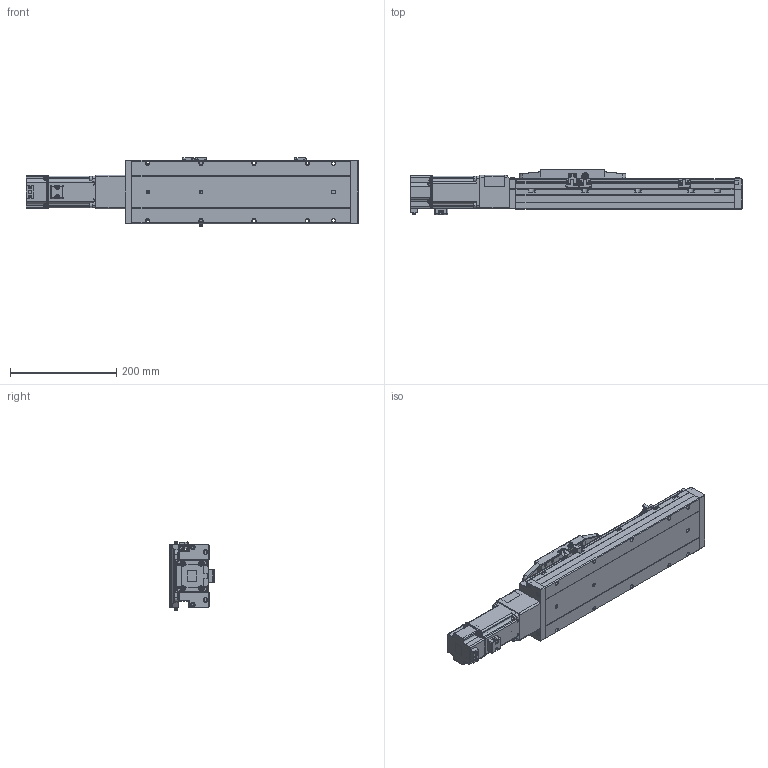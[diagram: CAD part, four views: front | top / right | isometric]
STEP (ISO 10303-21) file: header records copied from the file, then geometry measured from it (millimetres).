
FILE_DESCRIPTION (( 'STEP AP214' ), '1' );
FILE_NAME ('CTH12-L10-S200-BC-C40（简）.STEP', '2023-02-06T05:33:39', ( '' ), ( '' ), 'SwSTEP 2.0', 'SolidWorks 2018', '' );
FILE_SCHEMA (( 'AUTOMOTIVE_DESIGN' ));
Length unit declared in the file: millimetre
Products named in the file (23): M5蹟隊; 内六角圆柱头螺钉M3-1; CTH12覜茼え; CTH12萇儂釱; CTH12-BC-03_1; PM-Y45; 400W萇儂; hex nuts, style 1-grades ab gb_GB_FASTENER_NUT_SNAB1 M3-N; 内六角圆柱头螺钉M3-2; 内六角圆柱头螺钉M3; CTH12; CTH12_body_3; 嫖萇羲壽郪磁2; CTH12賑怢ㄗ潠ㄘ; 嫖萇羲壽郪磁1333; CTH嫖萇羲壽假蚾啣; CTH12-BL_body_4; CTH12底座-L411简（200行程）; CTH12-L10-S200-BC-C40（简）; CTH12賑怢郪磁; 蚐郲; CTH12-BC-06-T40（cth8-bc-06-t40-G）_1; 湮賑怢  裔赽-1(CTH12)賑怢
Assembly tree (43 placements, depth 4):
  CTH12-L10-S200-BC-C40（简）
    CTH12底座-L411简（200行程）
    蚐郲  x2
    CTH12-BL_body_4
    CTH12_body_3
    CTH12賑怢郪磁
      CTH12
        湮賑怢  裔赽-1(CTH12)賑怢
        CTH12賑怢ㄗ潠ㄘ
    CTH12覜茼え
    嫖萇羲壽郪磁2
      CTH嫖萇羲壽假蚾啣
      PM-Y45
      内六角圆柱头螺钉M3-1  x2
      内六角圆柱头螺钉M3-2  x2
      hex nuts, style 1-grades ab gb_GB_FASTENER_NUT_SNAB1 M3-N  x2
    CTH12萇儂釱
      CTH12-BC-03_1
      CTH12-BC-06-T40（cth8-bc-06-t40-G）_1
    嫖萇羲壽郪磁1333  x2
      CTH嫖萇羲壽假蚾啣
      PM-Y45
      内六角圆柱头螺钉M3-2
      内六角圆柱头螺钉M3-1
      hex nuts, style 1-grades ab gb_GB_FASTENER_NUT_SNAB1 M3-N
    内六角圆柱头螺钉M3  x6
    400W萇儂
    M5蹟隊  x4
Bounding box: 625.8 x 86.5 x 131.52 mm (x, y, z)
Volume: 3315571.7 mm3; surface area: 438488.8 mm2
Topology: 45 solids, 47 shells, 2759 faces, 6825 edges, 4291 vertices
Faces by surface type: plane 1376, cylinder 842, cone 287, bspline 126, torus 124, sphere 4
Entity records: 84760 total; most frequent: CARTESIAN_POINT 29078, ORIENTED_EDGE 10752, DIRECTION 10471, EDGE_CURVE 5376, AXIS2_PLACEMENT_3D 3669, VERTEX_POINT 3395, VECTOR 3133, LINE 3133
